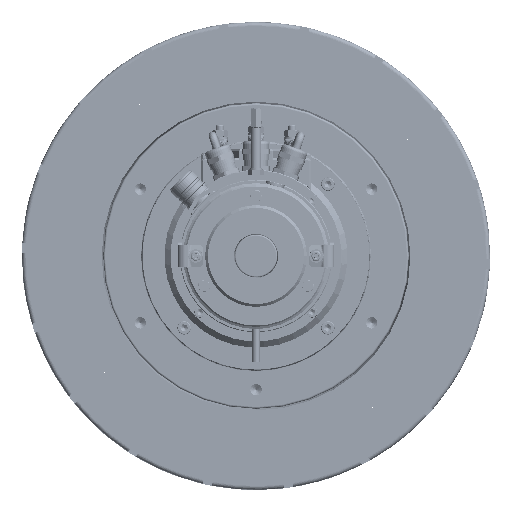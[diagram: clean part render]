
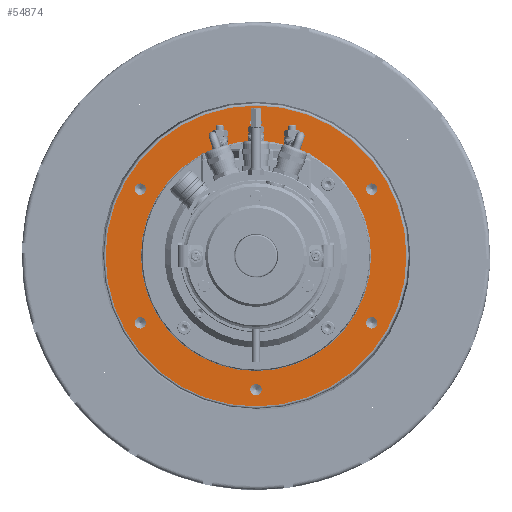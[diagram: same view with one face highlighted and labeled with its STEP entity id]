
A CAD part, left-side view. The second image highlights one B-rep face of the part: STEP entity #54874.
In plain terms, the highlighted planar face has unit normal (-1, 0, 0).
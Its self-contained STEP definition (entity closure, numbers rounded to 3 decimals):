
#1719=FACE_BOUND('',#10432,.T.);
#1720=FACE_BOUND('',#10433,.T.);
#1721=FACE_BOUND('',#10434,.T.);
#1722=FACE_BOUND('',#10435,.T.);
#1723=FACE_BOUND('',#10436,.T.);
#1724=FACE_BOUND('',#10437,.T.);
#1725=FACE_BOUND('',#10438,.T.);
#4026=PLANE('',#59939);
#6995=FACE_OUTER_BOUND('',#10431,.T.);
#10431=EDGE_LOOP('',(#46543));
#10432=EDGE_LOOP('',(#46544));
#10433=EDGE_LOOP('',(#46545));
#10434=EDGE_LOOP('',(#46546));
#10435=EDGE_LOOP('',(#46547));
#10436=EDGE_LOOP('',(#46548));
#10437=EDGE_LOOP('',(#46549));
#10438=EDGE_LOOP('',(#46550));
#20158=CIRCLE('',#59940,112.522);
#20159=CIRCLE('',#59941,4.25);
#20160=CIRCLE('',#59942,4.25);
#20161=CIRCLE('',#59943,4.25);
#20162=CIRCLE('',#59944,4.25);
#20163=CIRCLE('',#59945,4.25);
#20164=CIRCLE('',#59946,4.25);
#20165=CIRCLE('',#59947,86.106);
#24946=VERTEX_POINT('',#105383);
#24947=VERTEX_POINT('',#105385);
#24948=VERTEX_POINT('',#105387);
#24949=VERTEX_POINT('',#105389);
#24950=VERTEX_POINT('',#105391);
#24951=VERTEX_POINT('',#105393);
#24952=VERTEX_POINT('',#105395);
#24953=VERTEX_POINT('',#105397);
#32248=EDGE_CURVE('',#24946,#24946,#20158,.T.);
#32249=EDGE_CURVE('',#24947,#24947,#20159,.T.);
#32250=EDGE_CURVE('',#24948,#24948,#20160,.T.);
#32251=EDGE_CURVE('',#24949,#24949,#20161,.T.);
#32252=EDGE_CURVE('',#24950,#24950,#20162,.T.);
#32253=EDGE_CURVE('',#24951,#24951,#20163,.T.);
#32254=EDGE_CURVE('',#24952,#24952,#20164,.T.);
#32255=EDGE_CURVE('',#24953,#24953,#20165,.T.);
#46543=ORIENTED_EDGE('',*,*,#32248,.F.);
#46544=ORIENTED_EDGE('',*,*,#32249,.F.);
#46545=ORIENTED_EDGE('',*,*,#32250,.F.);
#46546=ORIENTED_EDGE('',*,*,#32251,.F.);
#46547=ORIENTED_EDGE('',*,*,#32252,.F.);
#46548=ORIENTED_EDGE('',*,*,#32253,.F.);
#46549=ORIENTED_EDGE('',*,*,#32254,.F.);
#46550=ORIENTED_EDGE('',*,*,#32255,.T.);
#54874=ADVANCED_FACE('',(#6995,#1719,#1720,#1721,#1722,#1723,#1724,#1725),
#4026,.F.);
#59939=AXIS2_PLACEMENT_3D('',#105382,#73288,#73289);
#59940=AXIS2_PLACEMENT_3D('',#105384,#73290,#73291);
#59941=AXIS2_PLACEMENT_3D('',#105386,#73292,#73293);
#59942=AXIS2_PLACEMENT_3D('',#105388,#73294,#73295);
#59943=AXIS2_PLACEMENT_3D('',#105390,#73296,#73297);
#59944=AXIS2_PLACEMENT_3D('',#105392,#73298,#73299);
#59945=AXIS2_PLACEMENT_3D('',#105394,#73300,#73301);
#59946=AXIS2_PLACEMENT_3D('',#105396,#73302,#73303);
#59947=AXIS2_PLACEMENT_3D('',#105398,#73304,#73305);
#73288=DIRECTION('center_axis',(1.,0.,0.));
#73289=DIRECTION('ref_axis',(0.,1.,0.));
#73290=DIRECTION('center_axis',(1.,0.,0.));
#73291=DIRECTION('ref_axis',(0.,1.,0.));
#73292=DIRECTION('center_axis',(-1.,0.,0.));
#73293=DIRECTION('ref_axis',(0.,-1.,0.));
#73294=DIRECTION('center_axis',(-1.,0.,0.));
#73295=DIRECTION('ref_axis',(0.,-1.,0.));
#73296=DIRECTION('center_axis',(-1.,0.,0.));
#73297=DIRECTION('ref_axis',(0.,-1.,0.));
#73298=DIRECTION('center_axis',(-1.,0.,0.));
#73299=DIRECTION('ref_axis',(0.,-1.,0.));
#73300=DIRECTION('center_axis',(-1.,0.,0.));
#73301=DIRECTION('ref_axis',(0.,-1.,0.));
#73302=DIRECTION('center_axis',(-1.,0.,0.));
#73303=DIRECTION('ref_axis',(0.,-1.,0.));
#73304=DIRECTION('center_axis',(1.,0.,0.));
#73305=DIRECTION('ref_axis',(0.,1.,0.));
#105382=CARTESIAN_POINT('Origin',(29.537,0.,
118.177));
#105383=CARTESIAN_POINT('',(29.537,112.522,0.));
#105384=CARTESIAN_POINT('Origin',(29.537,0.,
0.));
#105385=CARTESIAN_POINT('',(29.537,90.853,50.));
#105386=CARTESIAN_POINT('Origin',(29.537,86.603,50.));
#105387=CARTESIAN_POINT('',(29.537,90.853,-50.));
#105388=CARTESIAN_POINT('Origin',(29.537,86.603,-50.));
#105389=CARTESIAN_POINT('',(29.537,4.25,-100.));
#105390=CARTESIAN_POINT('Origin',(29.537,0.,
-100.));
#105391=CARTESIAN_POINT('',(29.537,-82.353,-50.));
#105392=CARTESIAN_POINT('Origin',(29.537,-86.603,-50.));
#105393=CARTESIAN_POINT('',(29.537,-82.353,50.));
#105394=CARTESIAN_POINT('Origin',(29.537,-86.603,50.));
#105395=CARTESIAN_POINT('',(29.537,4.25,100.));
#105396=CARTESIAN_POINT('Origin',(29.537,0.,
100.));
#105397=CARTESIAN_POINT('',(29.537,-86.106,0.));
#105398=CARTESIAN_POINT('Origin',(29.537,0.,
0.));
